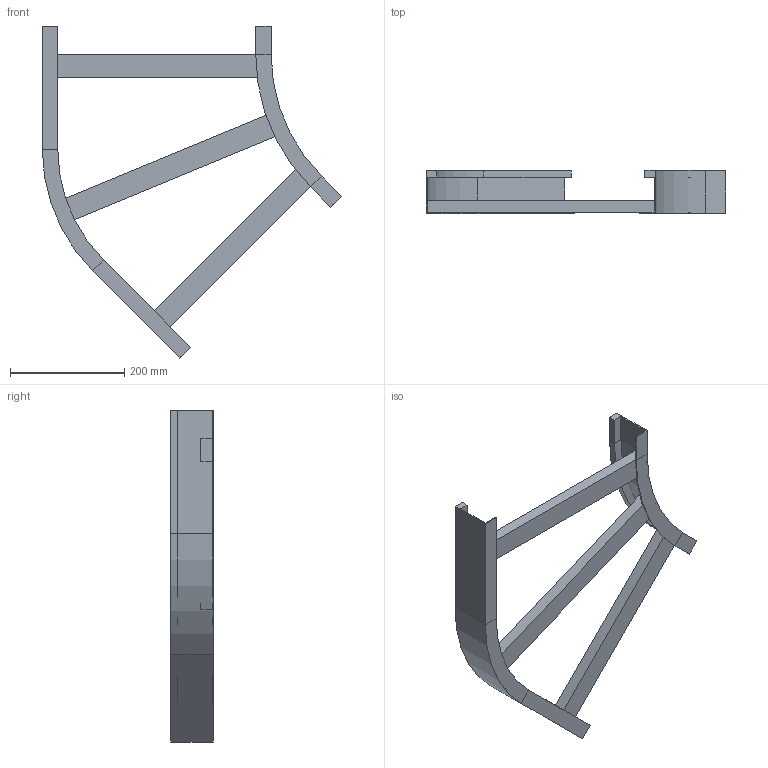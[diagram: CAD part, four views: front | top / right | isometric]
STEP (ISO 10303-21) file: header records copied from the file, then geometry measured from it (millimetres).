
FILE_DESCRIPTION (( 'STEP AP214' ), '1' );
FILE_NAME ('B2_11B3C400.step', '2025-02-21T15:16:36', ( '' ), ( '' ), 'SwSTEP 2.0', 'SolidWorks 2023', '' );
FILE_SCHEMA (( 'AUTOMOTIVE_DESIGN' ));
Length unit declared in the file: millimetre
Products named in the file (5): TRAVERSINO_400; B2_11B3C400; TRAVERSINO_L428; B2_LONGH.INTERNO 45°_H75_R300; B2_LONGH.ESTERNO 45°_H75_R300+400
Assembly tree (5 placements, depth 2):
  B2_11B3C400
    B2_LONGH.INTERNO 45°_H75_R300
    B2_LONGH.ESTERNO 45°_H75_R300+400
    TRAVERSINO_400  x2
    TRAVERSINO_L428
Bounding box: 523.22 x 75 x 580.33 mm (x, y, z)
Volume: 1381223 mm3; surface area: 390663.9 mm2
Topology: 5 solids, 5 shells, 70 faces, 148 edges, 88 vertices
Faces by surface type: plane 62, cylinder 8
Entity records: 1822 total; most frequent: DIRECTION 296, CARTESIAN_POINT 288, ORIENTED_EDGE 272, EDGE_CURVE 136, LINE 120, VECTOR 120, AXIS2_PLACEMENT_3D 88, VERTEX_POINT 80
